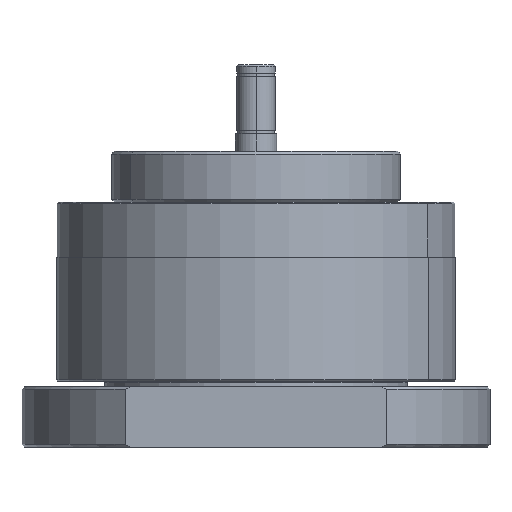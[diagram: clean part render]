
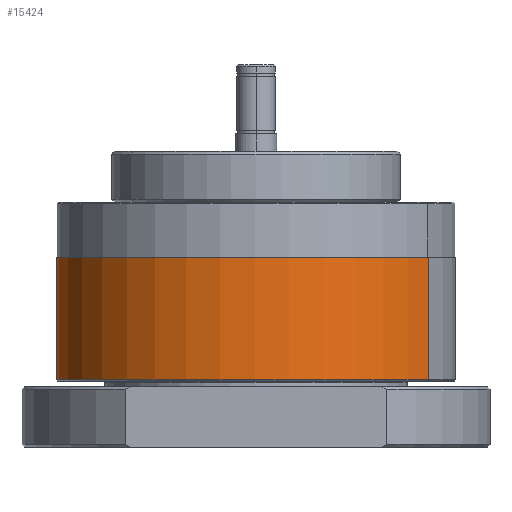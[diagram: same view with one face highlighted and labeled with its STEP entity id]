
A CAD part, front view. The second image highlights one B-rep face of the part: STEP entity #15424.
In plain terms, the highlighted cylindrical face has radius 72.5 mm (diameter 145 mm), a partial arc.
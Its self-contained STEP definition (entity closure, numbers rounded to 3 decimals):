
#544 = AXIS2_PLACEMENT_3D ( 'NONE', #20398, #37437, #4108 ) ;
#2277 = CYLINDRICAL_SURFACE ( 'NONE', #27665, 72.5 ) ;
#2489 = CIRCLE ( 'NONE', #8188, 72.5 ) ;
#2584 = VERTEX_POINT ( 'NONE', #11026 ) ;
#2815 = EDGE_CURVE ( 'NONE', #2584, #7341, #36708, .T. ) ;
#2931 = ORIENTED_EDGE ( 'NONE', *, *, #16685, .T. ) ;
#4108 = DIRECTION ( 'NONE',  ( 0.863, -0.506, 0. ) ) ;
#7341 = VERTEX_POINT ( 'NONE', #40215 ) ;
#8188 = AXIS2_PLACEMENT_3D ( 'NONE', #31839, #25408, #38263 ) ;
#9748 = CARTESIAN_POINT ( 'NONE',  ( -62.535, 100.607, 3. ) ) ;
#10724 = EDGE_CURVE ( 'NONE', #35584, #35398, #13091, .T. ) ;
#11026 = CARTESIAN_POINT ( 'NONE',  ( 62.535, 27.241, 30. ) ) ;
#12131 = FACE_OUTER_BOUND ( 'NONE', #38541, .T. ) ;
#13091 = LINE ( 'NONE', #9748, #15629 ) ;
#15424 = ADVANCED_FACE ( 'NONE', ( #12131 ), #2277, .T. ) ;
#15629 = VECTOR ( 'NONE', #23318, 1000. ) ;
#16104 = ORIENTED_EDGE ( 'NONE', *, *, #10724, .T. ) ;
#16311 = DIRECTION ( 'NONE',  ( -0.863, 0.506, 0. ) ) ;
#16534 = DIRECTION ( 'NONE',  ( 0., 0., -1. ) ) ;
#16685 = EDGE_CURVE ( 'NONE', #35398, #7341, #2489, .T. ) ;
#19672 = DIRECTION ( 'NONE',  ( 0., 0., -1. ) ) ;
#19768 = CIRCLE ( 'NONE', #544, 72.5 ) ;
#20398 = CARTESIAN_POINT ( 'NONE',  ( 0., 63.924, 30. ) ) ;
#21517 = CARTESIAN_POINT ( 'NONE',  ( -62.535, 100.607, -14.5 ) ) ;
#22131 = ORIENTED_EDGE ( 'NONE', *, *, #23647, .T. ) ;
#23318 = DIRECTION ( 'NONE',  ( 0., 0., -1. ) ) ;
#23647 = EDGE_CURVE ( 'NONE', #2584, #35584, #19768, .T. ) ;
#25408 = DIRECTION ( 'NONE',  ( 0., 0., 1. ) ) ;
#25708 = CARTESIAN_POINT ( 'NONE',  ( -62.535, 100.607, 30. ) ) ;
#27665 = AXIS2_PLACEMENT_3D ( 'NONE', #35838, #19672, #16311 ) ;
#31037 = VECTOR ( 'NONE', #16534, 1000. ) ;
#31839 = CARTESIAN_POINT ( 'NONE',  ( 0., 63.924, -14.5 ) ) ;
#34844 = ORIENTED_EDGE ( 'NONE', *, *, #2815, .F. ) ;
#35398 = VERTEX_POINT ( 'NONE', #21517 ) ;
#35584 = VERTEX_POINT ( 'NONE', #25708 ) ;
#35838 = CARTESIAN_POINT ( 'NONE',  ( 0., 63.924, 3. ) ) ;
#36708 = LINE ( 'NONE', #36931, #31037 ) ;
#36931 = CARTESIAN_POINT ( 'NONE',  ( 62.535, 27.241, 3. ) ) ;
#37437 = DIRECTION ( 'NONE',  ( 0., 0., -1. ) ) ;
#38263 = DIRECTION ( 'NONE',  ( -0.863, 0.506, 0. ) ) ;
#38541 = EDGE_LOOP ( 'NONE', ( #34844, #22131, #16104, #2931 ) ) ;
#40215 = CARTESIAN_POINT ( 'NONE',  ( 62.535, 27.241, -14.5 ) ) ;
